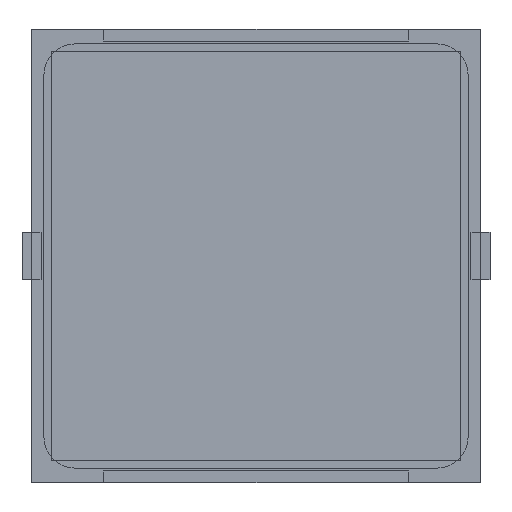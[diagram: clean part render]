
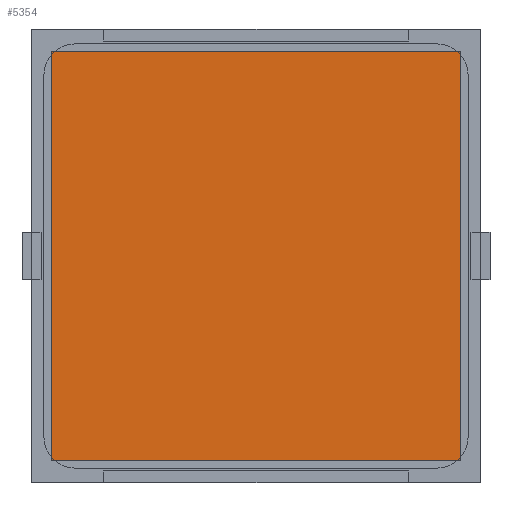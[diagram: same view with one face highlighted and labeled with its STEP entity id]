
A CAD part, front view. The second image highlights one B-rep face of the part: STEP entity #5354.
In plain terms, the highlighted planar face has unit normal (0, -1, 0).
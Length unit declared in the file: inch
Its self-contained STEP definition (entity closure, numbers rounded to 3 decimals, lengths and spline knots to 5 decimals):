
#417 = EDGE_CURVE ( 'NONE', #5578, #4411, #5711, .T. ) ;
#699 = EDGE_LOOP ( 'NONE', ( #701, #6425, #10217, #12883 ) ) ;
#701 = ORIENTED_EDGE ( 'NONE', *, *, #417, .F. ) ;
#1196 = LINE ( 'NONE', #3151, #8407 ) ;
#2218 = EDGE_CURVE ( 'NONE', #10609, #5578, #9605, .T. ) ;
#2582 = DIRECTION ( 'NONE',  ( 0., 1., 0. ) ) ;
#2757 = CARTESIAN_POINT ( 'NONE',  ( 0.84646, -0.005, 0.84646 ) ) ;
#3112 = VECTOR ( 'NONE', #10714, 39.37008 ) ;
#3151 = CARTESIAN_POINT ( 'NONE',  ( -0.84646, -0.005, 0.84646 ) ) ;
#3344 = CARTESIAN_POINT ( 'NONE',  ( 0.84646, -0.005, -0.84646 ) ) ;
#3631 = VECTOR ( 'NONE', #7633, 39.37008 ) ;
#3737 = AXIS2_PLACEMENT_3D ( 'NONE', #11584, #2582, #11711 ) ;
#3762 = VECTOR ( 'NONE', #8498, 39.37008 ) ;
#4167 = DIRECTION ( 'NONE',  ( 1., 0., 0. ) ) ;
#4411 = VERTEX_POINT ( 'NONE', #11737 ) ;
#5354 = ADVANCED_FACE ( 'NONE', ( #12395 ), #6493, .F. ) ;
#5578 = VERTEX_POINT ( 'NONE', #6743 ) ;
#5711 = LINE ( 'NONE', #9758, #3762 ) ;
#5954 = EDGE_CURVE ( 'NONE', #4411, #6551, #1196, .T. ) ;
#6425 = ORIENTED_EDGE ( 'NONE', *, *, #2218, .F. ) ;
#6493 = PLANE ( 'NONE',  #3737 ) ;
#6551 = VERTEX_POINT ( 'NONE', #2757 ) ;
#6743 = CARTESIAN_POINT ( 'NONE',  ( -0.84646, -0.005, -0.84646 ) ) ;
#6983 = EDGE_CURVE ( 'NONE', #6551, #10609, #8667, .T. ) ;
#7633 = DIRECTION ( 'NONE',  ( -1., 0., 0. ) ) ;
#8407 = VECTOR ( 'NONE', #4167, 39.37008 ) ;
#8498 = DIRECTION ( 'NONE',  ( 0., 0., 1. ) ) ;
#8551 = CARTESIAN_POINT ( 'NONE',  ( -0.84646, -0.005, -0.84646 ) ) ;
#8667 = LINE ( 'NONE', #3344, #3112 ) ;
#9605 = LINE ( 'NONE', #8551, #3631 ) ;
#9758 = CARTESIAN_POINT ( 'NONE',  ( -0.84646, -0.005, -0.84646 ) ) ;
#10217 = ORIENTED_EDGE ( 'NONE', *, *, #6983, .F. ) ;
#10609 = VERTEX_POINT ( 'NONE', #11819 ) ;
#10714 = DIRECTION ( 'NONE',  ( 0., 0., -1. ) ) ;
#11584 = CARTESIAN_POINT ( 'NONE',  ( -0.84646, -0.005, 0.84646 ) ) ;
#11711 = DIRECTION ( 'NONE',  ( 0., 0., 1. ) ) ;
#11737 = CARTESIAN_POINT ( 'NONE',  ( -0.84646, -0.005, 0.84646 ) ) ;
#11819 = CARTESIAN_POINT ( 'NONE',  ( 0.84646, -0.005, -0.84646 ) ) ;
#12395 = FACE_OUTER_BOUND ( 'NONE', #699, .T. ) ;
#12883 = ORIENTED_EDGE ( 'NONE', *, *, #5954, .F. ) ;
